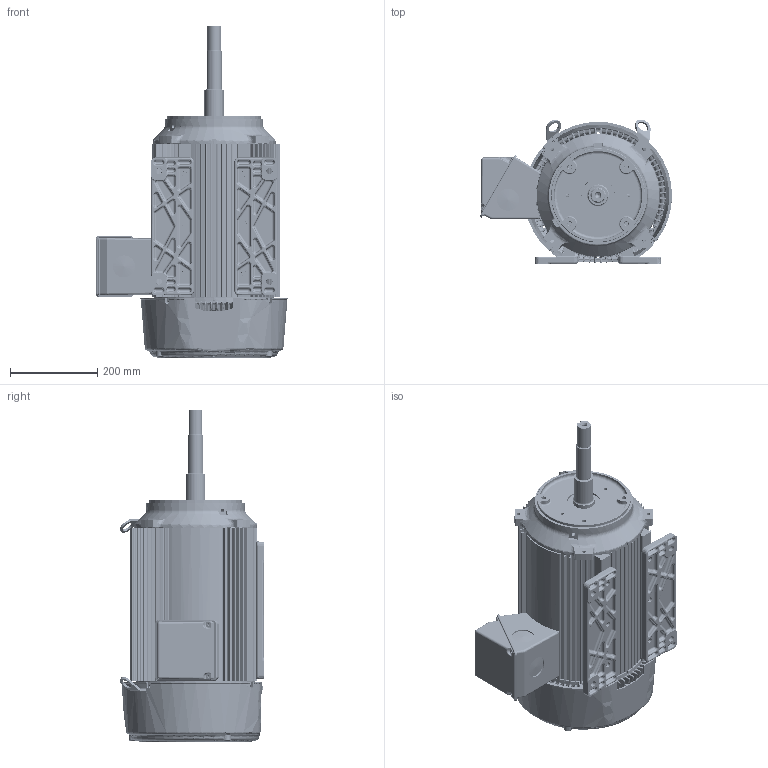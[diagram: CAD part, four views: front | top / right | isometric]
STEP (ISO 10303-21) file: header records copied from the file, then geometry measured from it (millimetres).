
FILE_DESCRIPTION((''),'2;1');
FILE_NAME('CCP_CFACE_ASM','2016-02-29T',('emd2341'),('Nidec Motor Corporation'),'PRO/ENGINEER BY PARAMETRIC TECHNOLOGY CORPORATION, 2013150','PRO/ENGINEER BY PARAMETRIC TECHNOLOGY CORPORATION, 2013150','');
FILE_SCHEMA(('CONFIG_CONTROL_DESIGN'));
Length unit declared in the file: inch
Products named in the file (17): 0375096_AF0; 0375099-BKT_AF2; 2033996-004_AF0; 0375600_ASM; 0364285; 0362104; 0362103; 0374700-BKT_AF0; 0378229_AF0; 1001043_ASM; 0183520; 0373874; 0132337; 0369733; 0364282-OBB; 0364292; CCP_CFACE_ASM
Assembly tree (17 placements, depth 3):
  CCP_CFACE_ASM
    0375096_AF0
    0375600_ASM
      0375099-BKT_AF2
      2033996-004_AF0
    0364285
    0362104
    0362103
    1001043_ASM
      0374700-BKT_AF0
      0378229_AF0
    0183520
    0373874
    0132337
    0369733  x2
    0364282-OBB
    0364292
Bounding box: 441.5 x 332.48 x 762.89 mm (x, y, z)
Volume: 8075980.2 mm3; surface area: 2583179.6 mm2
Topology: 17 solids, 17 shells, 9182 faces, 21693 edges, 12517 vertices
Faces by surface type: bspline 4566, cylinder 1599, plane 1328, torus 868, cone 588, sphere 231, extrusion 2
Entity records: 479107 total; most frequent: CARTESIAN_POINT 299289, ORIENTED_EDGE 43214, DIRECTION 29579, EDGE_CURVE 21607, VERTEX_POINT 12493, AXIS2_PLACEMENT_3D 12185, EDGE_LOOP 9402, FACE_OUTER_BOUND 9164
